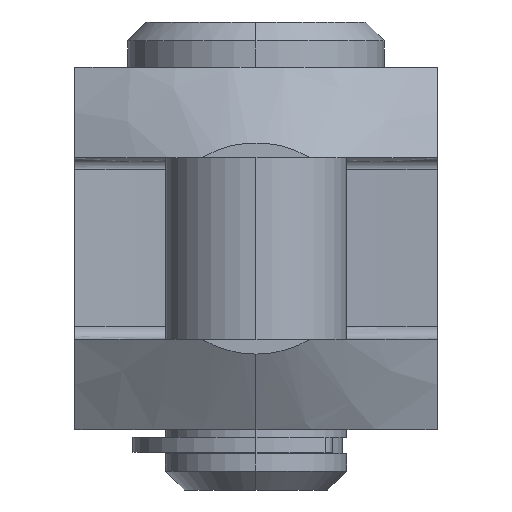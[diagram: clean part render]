
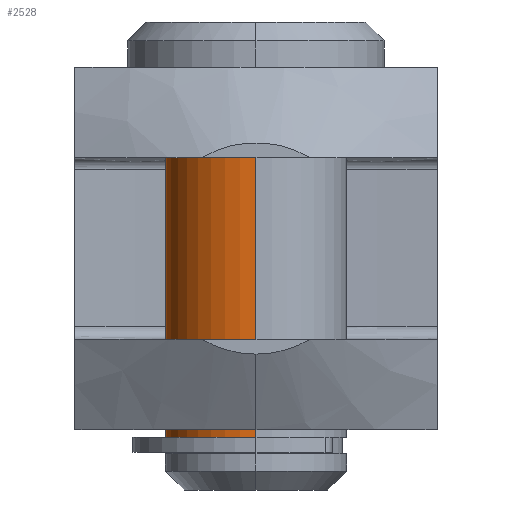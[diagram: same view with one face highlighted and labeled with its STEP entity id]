
A CAD part, left-side view. The second image highlights one B-rep face of the part: STEP entity #2528.
In plain terms, the highlighted cylindrical face has radius 6 mm (diameter 12 mm), a partial arc.
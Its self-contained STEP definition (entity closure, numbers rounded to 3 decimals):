
#95 = CARTESIAN_POINT ( 'NONE',  ( 0., 0., 0. ) ) ;
#110 = ORIENTED_EDGE ( 'NONE', *, *, #393, .T. ) ;
#323 = DIRECTION ( 'NONE',  ( -1., 0., 0. ) ) ;
#324 = DIRECTION ( 'NONE',  ( 0., 0., -1. ) ) ;
#325 = LINE ( 'NONE', #2745, #4094 ) ;
#330 = CARTESIAN_POINT ( 'NONE',  ( 0., 0., 28. ) ) ;
#393 = EDGE_CURVE ( 'NONE', #4610, #1757, #3594, .T. ) ;
#863 = EDGE_CURVE ( 'NONE', #1561, #4610, #3363, .T. ) ;
#914 = ORIENTED_EDGE ( 'NONE', *, *, #863, .T. ) ;
#1145 = ORIENTED_EDGE ( 'NONE', *, *, #4078, .F. ) ;
#1230 = EDGE_CURVE ( 'NONE', #2259, #1561, #4498, .T. ) ;
#1434 = CARTESIAN_POINT ( 'NONE',  ( -6., 0., 28. ) ) ;
#1496 = CARTESIAN_POINT ( 'NONE',  ( 6., 0., 0. ) ) ;
#1502 = DIRECTION ( 'NONE',  ( 0., 0., -1. ) ) ;
#1527 = CARTESIAN_POINT ( 'NONE',  ( 6., 0., 3.5 ) ) ;
#1561 = VERTEX_POINT ( 'NONE', #4433 ) ;
#1757 = VERTEX_POINT ( 'NONE', #3737 ) ;
#1849 = ORIENTED_EDGE ( 'NONE', *, *, #1230, .T. ) ;
#1986 = AXIS2_PLACEMENT_3D ( 'NONE', #95, #4388, #4189 ) ;
#2259 = VERTEX_POINT ( 'NONE', #1434 ) ;
#2383 = AXIS2_PLACEMENT_3D ( 'NONE', #4362, #4353, #4346 ) ;
#2528 = ADVANCED_FACE ( 'NONE', ( #4173 ), #3675, .T. ) ;
#2591 = EDGE_LOOP ( 'NONE', ( #1849, #914, #110, #1145 ) ) ;
#2727 = DIRECTION ( 'NONE',  ( 0., 0., -1. ) ) ;
#2745 = CARTESIAN_POINT ( 'NONE',  ( -6., 0., 0. ) ) ;
#3363 = LINE ( 'NONE', #1496, #4125 ) ;
#3594 = CIRCLE ( 'NONE', #2383, 6. ) ;
#3675 = CYLINDRICAL_SURFACE ( 'NONE', #1986, 6. ) ;
#3737 = CARTESIAN_POINT ( 'NONE',  ( -6., 0., 3.5 ) ) ;
#4078 = EDGE_CURVE ( 'NONE', #2259, #1757, #325, .T. ) ;
#4094 = VECTOR ( 'NONE', #2727, 1000. ) ;
#4125 = VECTOR ( 'NONE', #1502, 1000. ) ;
#4173 = FACE_OUTER_BOUND ( 'NONE', #2591, .T. ) ;
#4189 = DIRECTION ( 'NONE',  ( -1., 0., 0. ) ) ;
#4346 = DIRECTION ( 'NONE',  ( -1., 0., 0. ) ) ;
#4353 = DIRECTION ( 'NONE',  ( 0., 0., 1. ) ) ;
#4362 = CARTESIAN_POINT ( 'NONE',  ( 0., 0., 3.5 ) ) ;
#4388 = DIRECTION ( 'NONE',  ( 0., 0., -1. ) ) ;
#4433 = CARTESIAN_POINT ( 'NONE',  ( 6., 0., 28. ) ) ;
#4498 = CIRCLE ( 'NONE', #4579, 6. ) ;
#4579 = AXIS2_PLACEMENT_3D ( 'NONE', #330, #324, #323 ) ;
#4610 = VERTEX_POINT ( 'NONE', #1527 ) ;
